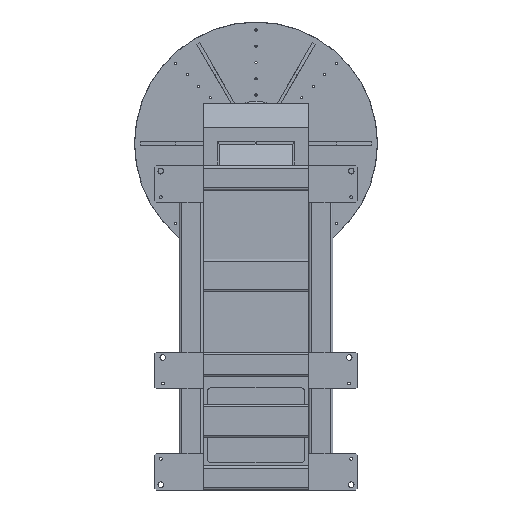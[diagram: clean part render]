
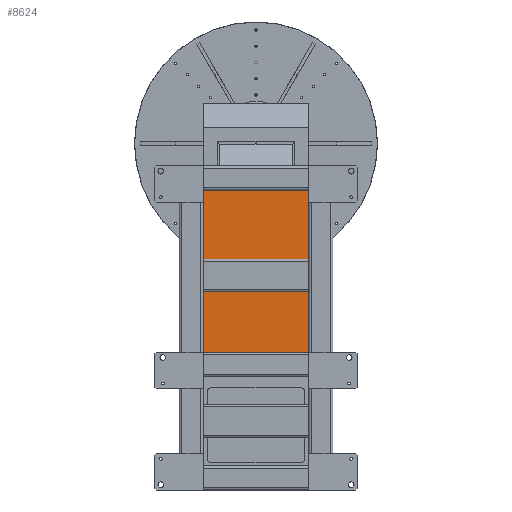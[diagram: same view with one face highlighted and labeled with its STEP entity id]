
A CAD part, front view. The second image highlights one B-rep face of the part: STEP entity #8624.
In plain terms, the highlighted planar face has unit normal (0, -1, 0).
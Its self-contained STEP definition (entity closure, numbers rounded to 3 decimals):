
#186 = VECTOR ( 'NONE', #12300, 1000. ) ;
#239 = CARTESIAN_POINT ( 'NONE',  ( -362.042, 24.639, 1915. ) ) ;
#841 = VECTOR ( 'NONE', #13101, 1000. ) ;
#865 = EDGE_CURVE ( 'NONE', #21720, #4308, #20678, .T. ) ;
#1046 = CARTESIAN_POINT ( 'NONE',  ( -362.042, 24.639, 1985. ) ) ;
#1408 = EDGE_CURVE ( 'NONE', #14555, #2715, #14543, .T. ) ;
#1722 = CARTESIAN_POINT ( 'NONE',  ( 302.958, 24.639, 1985. ) ) ;
#2454 = LINE ( 'NONE', #16245, #12246 ) ;
#2615 = ORIENTED_EDGE ( 'NONE', *, *, #11688, .F. ) ;
#2715 = VERTEX_POINT ( 'NONE', #20341 ) ;
#2913 = EDGE_CURVE ( 'NONE', #11126, #17797, #17852, .T. ) ;
#3293 = ORIENTED_EDGE ( 'NONE', *, *, #18248, .F. ) ;
#3581 = VECTOR ( 'NONE', #11928, 1000. ) ;
#3642 = DIRECTION ( 'NONE',  ( 0., 0., -1. ) ) ;
#4205 = ORIENTED_EDGE ( 'NONE', *, *, #12742, .F. ) ;
#4308 = VERTEX_POINT ( 'NONE', #9089 ) ;
#4806 = EDGE_CURVE ( 'NONE', #2715, #17797, #5966, .T. ) ;
#5393 = VECTOR ( 'NONE', #15630, 1000. ) ;
#5966 = LINE ( 'NONE', #13276, #5393 ) ;
#6050 = LINE ( 'NONE', #6707, #10934 ) ;
#6330 = ORIENTED_EDGE ( 'NONE', *, *, #15880, .T. ) ;
#6663 = CARTESIAN_POINT ( 'NONE',  ( 302.958, 24.639, 3200. ) ) ;
#6707 = CARTESIAN_POINT ( 'NONE',  ( -362.042, 24.639, 3065. ) ) ;
#7235 = DIRECTION ( 'NONE',  ( -1., 0., 0. ) ) ;
#7248 = CARTESIAN_POINT ( 'NONE',  ( -612.042, 24.639, 2035. ) ) ;
#8119 = CARTESIAN_POINT ( 'NONE',  ( -362.042, 24.639, 3185. ) ) ;
#8393 = VECTOR ( 'NONE', #21358, 1000. ) ;
#8624 = ADVANCED_FACE ( 'NONE', ( #22145, #16607 ), #14383, .T. ) ;
#8941 = DIRECTION ( 'NONE',  ( 0., 0., -1. ) ) ;
#9089 = CARTESIAN_POINT ( 'NONE',  ( 287.958, 24.639, 1985. ) ) ;
#9343 = EDGE_CURVE ( 'NONE', #12161, #21720, #23589, .T. ) ;
#9502 = DIRECTION ( 'NONE',  ( 0., -1., 0. ) ) ;
#9626 = VECTOR ( 'NONE', #22780, 1000. ) ;
#9771 = ORIENTED_EDGE ( 'NONE', *, *, #17934, .F. ) ;
#9842 = ORIENTED_EDGE ( 'NONE', *, *, #12468, .F. ) ;
#9895 = CARTESIAN_POINT ( 'NONE',  ( -377.042, 24.639, 1985. ) ) ;
#10098 = CARTESIAN_POINT ( 'NONE',  ( 422.958, 24.639, 3200. ) ) ;
#10239 = CARTESIAN_POINT ( 'NONE',  ( 422.958, 24.639, 1985. ) ) ;
#10416 = LINE ( 'NONE', #22011, #14765 ) ;
#10510 = VERTEX_POINT ( 'NONE', #1722 ) ;
#10934 = VECTOR ( 'NONE', #21482, 1000. ) ;
#11126 = VERTEX_POINT ( 'NONE', #19489 ) ;
#11590 = CARTESIAN_POINT ( 'NONE',  ( -612.042, 24.639, 3065. ) ) ;
#11688 = EDGE_CURVE ( 'NONE', #12072, #10510, #22313, .T. ) ;
#11928 = DIRECTION ( 'NONE',  ( 1., 0., 0. ) ) ;
#11963 = DIRECTION ( 'NONE',  ( 1., 0., 0. ) ) ;
#12072 = VERTEX_POINT ( 'NONE', #19049 ) ;
#12161 = VERTEX_POINT ( 'NONE', #15626 ) ;
#12226 = VERTEX_POINT ( 'NONE', #1046 ) ;
#12246 = VECTOR ( 'NONE', #8941, 1000. ) ;
#12300 = DIRECTION ( 'NONE',  ( 1., 0., 0. ) ) ;
#12468 = EDGE_CURVE ( 'NONE', #14555, #11126, #6050, .T. ) ;
#12742 = EDGE_CURVE ( 'NONE', #12161, #12226, #19894, .T. ) ;
#12933 = VECTOR ( 'NONE', #11963, 1000. ) ;
#13101 = DIRECTION ( 'NONE',  ( 0., 0., -1. ) ) ;
#13276 = CARTESIAN_POINT ( 'NONE',  ( 287.958, 24.639, 3065. ) ) ;
#13990 = CARTESIAN_POINT ( 'NONE',  ( 287.958, 24.639, 3065. ) ) ;
#14383 = PLANE ( 'NONE',  #19771 ) ;
#14543 = LINE ( 'NONE', #21372, #9626 ) ;
#14555 = VERTEX_POINT ( 'NONE', #8119 ) ;
#14765 = VECTOR ( 'NONE', #7235, 1000. ) ;
#14918 = EDGE_LOOP ( 'NONE', ( #2615, #20225, #6330, #9771, #4205, #23389, #19684, #3293 ) ) ;
#15626 = CARTESIAN_POINT ( 'NONE',  ( -362.042, 24.639, 2035. ) ) ;
#15630 = DIRECTION ( 'NONE',  ( 0., 0., -1. ) ) ;
#15880 = EDGE_CURVE ( 'NONE', #23867, #18731, #2454, .T. ) ;
#16245 = CARTESIAN_POINT ( 'NONE',  ( -377.042, 24.639, 3200. ) ) ;
#16358 = ORIENTED_EDGE ( 'NONE', *, *, #2913, .F. ) ;
#16607 = FACE_OUTER_BOUND ( 'NONE', #14918, .T. ) ;
#16778 = EDGE_CURVE ( 'NONE', #23867, #12072, #17681, .T. ) ;
#17399 = CARTESIAN_POINT ( 'NONE',  ( 287.958, 24.639, 1915. ) ) ;
#17604 = DIRECTION ( 'NONE',  ( 0., 0., -1. ) ) ;
#17681 = LINE ( 'NONE', #10098, #3581 ) ;
#17797 = VERTEX_POINT ( 'NONE', #13990 ) ;
#17852 = LINE ( 'NONE', #11590, #12933 ) ;
#17934 = EDGE_CURVE ( 'NONE', #12226, #18731, #10416, .T. ) ;
#18217 = LINE ( 'NONE', #10239, #8393 ) ;
#18248 = EDGE_CURVE ( 'NONE', #10510, #4308, #18217, .T. ) ;
#18731 = VERTEX_POINT ( 'NONE', #9895 ) ;
#19049 = CARTESIAN_POINT ( 'NONE',  ( 302.958, 24.639, 3200. ) ) ;
#19489 = CARTESIAN_POINT ( 'NONE',  ( -362.042, 24.639, 3065. ) ) ;
#19684 = ORIENTED_EDGE ( 'NONE', *, *, #865, .T. ) ;
#19771 = AXIS2_PLACEMENT_3D ( 'NONE', #23502, #9502, #3642 ) ;
#19894 = LINE ( 'NONE', #239, #841 ) ;
#20084 = VECTOR ( 'NONE', #17604, 1000. ) ;
#20225 = ORIENTED_EDGE ( 'NONE', *, *, #16778, .F. ) ;
#20341 = CARTESIAN_POINT ( 'NONE',  ( 287.958, 24.639, 3185. ) ) ;
#20384 = CARTESIAN_POINT ( 'NONE',  ( 287.958, 24.639, 2035. ) ) ;
#20678 = LINE ( 'NONE', #17399, #20084 ) ;
#20765 = ORIENTED_EDGE ( 'NONE', *, *, #4806, .T. ) ;
#21358 = DIRECTION ( 'NONE',  ( -1., 0., 0. ) ) ;
#21372 = CARTESIAN_POINT ( 'NONE',  ( -612.042, 24.639, 3185. ) ) ;
#21432 = DIRECTION ( 'NONE',  ( 0., 0., -1. ) ) ;
#21482 = DIRECTION ( 'NONE',  ( 0., 0., -1. ) ) ;
#21720 = VERTEX_POINT ( 'NONE', #20384 ) ;
#21730 = VECTOR ( 'NONE', #21432, 1000. ) ;
#22011 = CARTESIAN_POINT ( 'NONE',  ( 422.958, 24.639, 1985. ) ) ;
#22145 = FACE_BOUND ( 'NONE', #22553, .T. ) ;
#22313 = LINE ( 'NONE', #6663, #21730 ) ;
#22439 = ORIENTED_EDGE ( 'NONE', *, *, #1408, .T. ) ;
#22553 = EDGE_LOOP ( 'NONE', ( #16358, #9842, #22439, #20765 ) ) ;
#22591 = CARTESIAN_POINT ( 'NONE',  ( -377.042, 24.639, 3200. ) ) ;
#22780 = DIRECTION ( 'NONE',  ( 1., 0., 0. ) ) ;
#23389 = ORIENTED_EDGE ( 'NONE', *, *, #9343, .T. ) ;
#23502 = CARTESIAN_POINT ( 'NONE',  ( -37.042, 24.639, 1200. ) ) ;
#23589 = LINE ( 'NONE', #7248, #186 ) ;
#23867 = VERTEX_POINT ( 'NONE', #22591 ) ;
